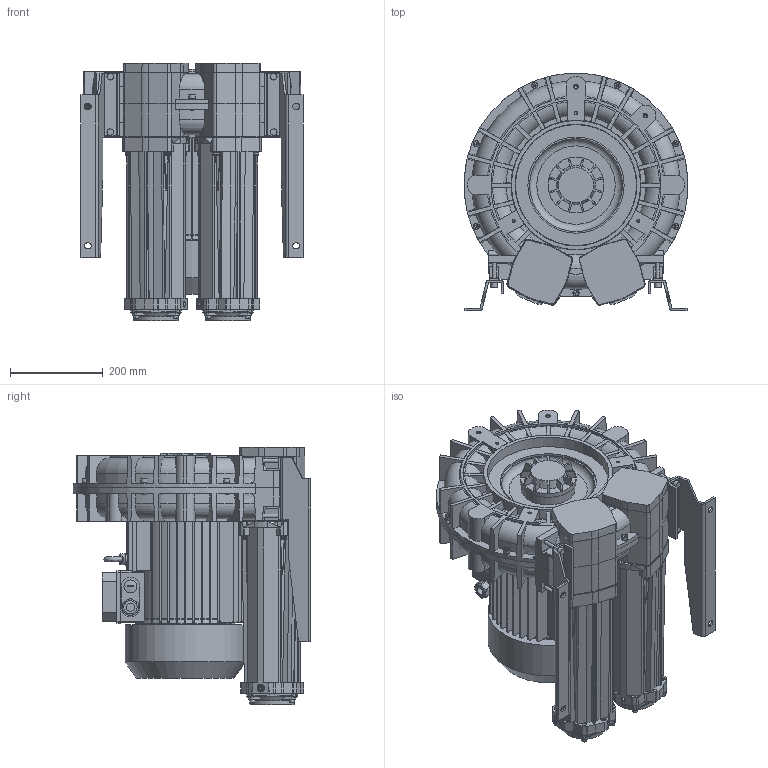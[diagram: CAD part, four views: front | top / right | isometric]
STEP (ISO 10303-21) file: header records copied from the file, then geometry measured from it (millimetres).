
FILE_DESCRIPTION (( 'STEP AP203' ), '1' );
FILE_NAME ('STP-L_e_08P_MS_MOR_IE3WR_132_9.2kW-3_25-00.step', '2025-02-28T14:49:20', ( '' ), ( '' ), 'SwSTEP 2.0', 'SolidWorks 2024', '' );
FILE_SCHEMA (( 'CONFIG_CONTROL_DESIGN' ));
Products named in the file (1): STP-L_e_08P_MS_MOR_IE3WR_132_9.2kW-3_25-00
Bounding box: 481.94 x 511 x 555 mm (x, y, z)
Volume: 45504663 mm3; surface area: 2864389 mm2
Topology: 78 solids, 86 shells, 5481 faces, 14071 edges, 8788 vertices
Faces by surface type: plane 1880, cylinder 1806, bspline 846, torus 479, cone 429, sphere 41
Full cylindrical faces by diameter (mm): 5 x16, 6 x24, 6.4 x8, 6.8 x9, 7.5 x4, 8 x23, 8.4 x19, 8.5 x6, 8.566 x2, 8.8 x4, 9 x8, 9.5 x4, 9.98 x2, 10 x19, 12 x2, 12.02 x2, 13 x26, 14 x14, 16 x4, 16.5 x2, 18 x1, 19 x1, 20 x2, 21.4 x1, 24 x4, 25 x3, 28 x1, 85.3 x2, 108 x2, 115 x2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
Entity records: 238839 total; most frequent: CARTESIAN_POINT 116866, ORIENTED_EDGE 26656, DIRECTION 23462, EDGE_CURVE 13328, AXIS2_PLACEMENT_3D 9047, VERTEX_POINT 8568, EDGE_LOOP 6170, FACE_OUTER_BOUND 5792
